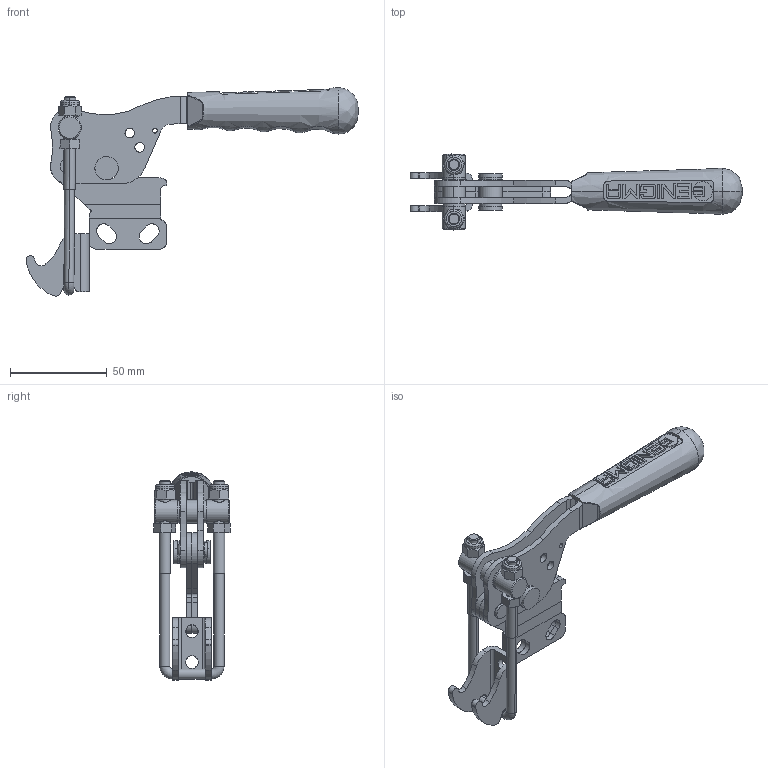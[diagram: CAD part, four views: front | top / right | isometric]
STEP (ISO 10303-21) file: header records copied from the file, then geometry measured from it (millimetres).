
FILE_DESCRIPTION (( 'STEP AP203' ), '1' );
FILE_NAME ('13206_D.STEP', '2022-11-30T11:52:01', ( '' ), ( '' ), 'SwSTEP 2.0', 'SolidWorks 2023', '' );
FILE_SCHEMA (( 'CONFIG_CONTROL_DESIGN' ));
Length unit declared in the file: millimetre
Products named in the file (13): M6_F_X2_0130_X0_BERL_X2_0130_X0__SOMUN; M6_SOMUN; M6x50_U_KANCA_Varsayılan; 13206_ALMANYA_Y_G_X2_00d6_X0_VDE_10.08.22-16.56; Mirror13206_ALMANYA_Y_G_X2_00d6_X0_VDE_10.08.22-16.56; M6_KK; 13206_ALMANYA_HAREKET_KOLU_10.08.22-17.03; 13206_D; C90_Yeni_Tutamak_Varsay_X2_0131_X0_lan; _X2_00d8_X0_12xM6_U_KANCA_M_X2_0130_X0_L_X2_0130_X0__OTOMATI_Varsay_X2_0131_X0_lan; _X2_00d8_X0_12x18,7_OTOMAT; Mirror13206_ALMANYA_HAREKET_KOLU_10.08.22-17.03; 5x17_PER_X2_00c70130_X0_N_Varsay_X2_0131_X0_lan
Assembly tree (14 placements, depth 2):
  13206_D
    13206_ALMANYA_Y_G_X2_00d6_X0_VDE_10.08.22-16.56
    13206_ALMANYA_HAREKET_KOLU_10.08.22-17.03
    C90_Yeni_Tutamak_Varsay_X2_0131_X0_lan
    M6_KK
    Mirror13206_ALMANYA_HAREKET_KOLU_10.08.22-17.03
    Mirror13206_ALMANYA_Y_G_X2_00d6_X0_VDE_10.08.22-16.56
    _X2_00d8_X0_12xM6_U_KANCA_M_X2_0130_X0_L_X2_0130_X0__OTOMATI_Varsay_X2_0131_X0_lan
    _X2_00d8_X0_12x18,7_OTOMAT
    5x17_PER_X2_00c70130_X0_N_Varsay_X2_0131_X0_lan
    M6_F_X2_0130_X0_BERL_X2_0130_X0__SOMUN  x2
    M6_SOMUN  x2
    M6x50_U_KANCA_Varsayılan
Bounding box: 171.58 x 39.47 x 107.65 mm (x, y, z)
Volume: 68334.2 mm3; surface area: 46011 mm2
Topology: 14 solids, 14 shells, 599 faces, 1540 edges, 987 vertices
Faces by surface type: plane 285, cylinder 190, bspline 66, cone 54, torus 4
Entity records: 32506 total; most frequent: CARTESIAN_POINT 17885, ORIENTED_EDGE 2832, DIRECTION 2631, EDGE_CURVE 1416, AXIS2_PLACEMENT_3D 939, VERTEX_POINT 913, VECTOR 753, LINE 753
